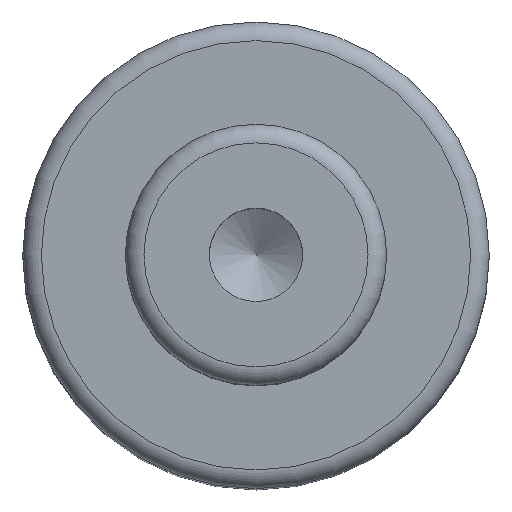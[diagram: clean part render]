
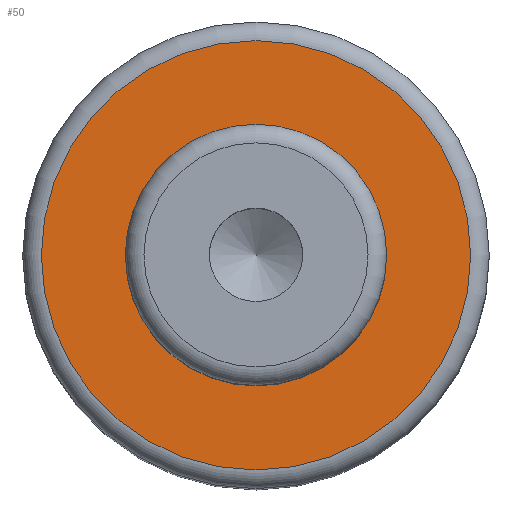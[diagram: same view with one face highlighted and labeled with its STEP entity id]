
A CAD part, top view. The second image highlights one B-rep face of the part: STEP entity #50.
In plain terms, the highlighted planar face has unit normal (0, 0, 1).
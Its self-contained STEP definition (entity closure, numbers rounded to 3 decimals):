
#40=PLANE('',#179);
#50=ADVANCED_FACE('',(#72,#73),#40,.F.);
#72=FACE_BOUND('',#96,.T.);
#73=FACE_BOUND('',#97,.T.);
#96=EDGE_LOOP('',(#118));
#97=EDGE_LOOP('',(#119));
#118=ORIENTED_EDGE('',*,*,#149,.F.);
#119=ORIENTED_EDGE('',*,*,#148,.T.);
#135=VERTEX_POINT('',#256);
#136=VERTEX_POINT('',#259);
#148=EDGE_CURVE('',#135,#135,#159,.T.);
#149=EDGE_CURVE('',#136,#136,#160,.T.);
#159=CIRCLE('',#176,7.);
#160=CIRCLE('',#178,11.5);
#176=AXIS2_PLACEMENT_3D('',#255,#213,#214);
#178=AXIS2_PLACEMENT_3D('',#258,#217,#218);
#179=AXIS2_PLACEMENT_3D('',#260,#219,#220);
#213=DIRECTION('',(0.,0.,-1.));
#214=DIRECTION('',(-1.,0.,0.));
#217=DIRECTION('',(0.,0.,-1.));
#218=DIRECTION('',(-1.,0.,0.));
#219=DIRECTION('',(0.,0.,-1.));
#220=DIRECTION('',(-1.,0.,0.));
#255=CARTESIAN_POINT('',(0.,0.,42.));
#256=CARTESIAN_POINT('',(-7.,0.,42.));
#258=CARTESIAN_POINT('',(0.,0.,42.));
#259=CARTESIAN_POINT('',(-11.5,0.,42.));
#260=CARTESIAN_POINT('',(7.,0.,42.));
